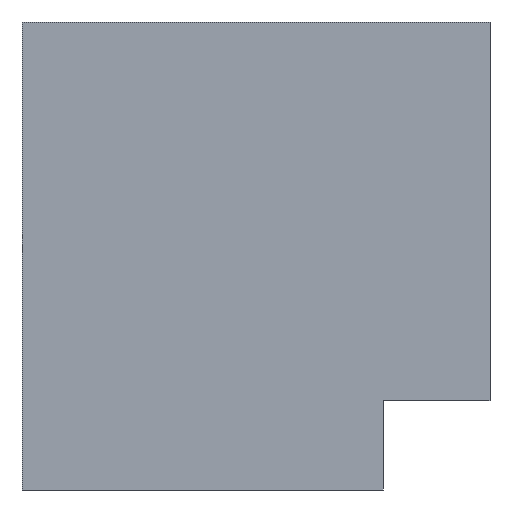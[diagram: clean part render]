
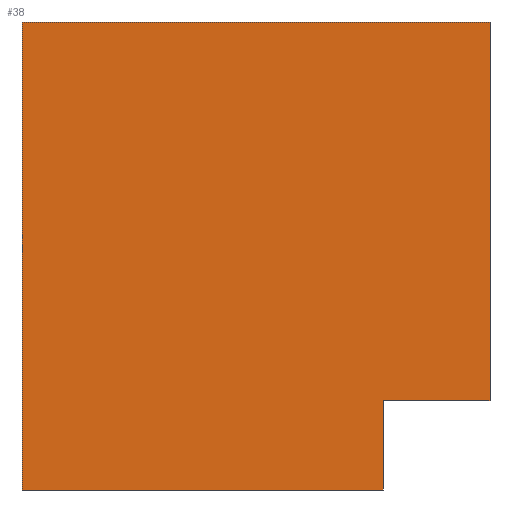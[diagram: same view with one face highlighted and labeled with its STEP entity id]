
A CAD part, front view. The second image highlights one B-rep face of the part: STEP entity #38.
In plain terms, the highlighted planar face has unit normal (0, -1, 0).
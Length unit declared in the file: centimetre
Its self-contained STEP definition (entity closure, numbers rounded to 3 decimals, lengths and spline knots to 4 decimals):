
#3 = DIRECTION ( 'NONE',  ( 0., 0., -1. ) ) ;
#33 = EDGE_CURVE ( 'NONE', #748, #565, #600, .T. ) ;
#38 = ADVANCED_FACE ( 'NONE', ( #286 ), #577, .F. ) ;
#80 = VECTOR ( 'NONE', #3, 100. ) ;
#92 = DIRECTION ( 'NONE',  ( -1., 0., 0. ) ) ;
#94 = VERTEX_POINT ( 'NONE', #772 ) ;
#102 = DIRECTION ( 'NONE',  ( 1., 0., 0. ) ) ;
#151 = LINE ( 'NONE', #728, #336 ) ;
#153 = CARTESIAN_POINT ( 'NONE',  ( 0., 0., 1000. ) ) ;
#162 = VERTEX_POINT ( 'NONE', #341 ) ;
#175 = CARTESIAN_POINT ( 'NONE',  ( 0., 0., 1000. ) ) ;
#191 = LINE ( 'NONE', #175, #707 ) ;
#195 = VERTEX_POINT ( 'NONE', #694 ) ;
#225 = DIRECTION ( 'NONE',  ( 0., 0., -1. ) ) ;
#240 = CARTESIAN_POINT ( 'NONE',  ( 0., 0., 0. ) ) ;
#246 = EDGE_CURVE ( 'NONE', #195, #162, #427, .T. ) ;
#286 = FACE_OUTER_BOUND ( 'NONE', #572, .T. ) ;
#292 = VECTOR ( 'NONE', #452, 100. ) ;
#305 = ORIENTED_EDGE ( 'NONE', *, *, #783, .F. ) ;
#324 = CARTESIAN_POINT ( 'NONE',  ( 1000., 0., 1000. ) ) ;
#336 = VECTOR ( 'NONE', #92, 100. ) ;
#340 = ORIENTED_EDGE ( 'NONE', *, *, #355, .F. ) ;
#341 = CARTESIAN_POINT ( 'NONE',  ( 771.8563, 0., 0. ) ) ;
#352 = CARTESIAN_POINT ( 'NONE',  ( 771.8563, 0., 0. ) ) ;
#355 = EDGE_CURVE ( 'NONE', #94, #195, #151, .T. ) ;
#362 = DIRECTION ( 'NONE',  ( 0., 0., 1. ) ) ;
#414 = EDGE_CURVE ( 'NONE', #565, #162, #749, .T. ) ;
#427 = LINE ( 'NONE', #352, #718 ) ;
#430 = DIRECTION ( 'NONE',  ( 0., 1., 0. ) ) ;
#443 = CARTESIAN_POINT ( 'NONE',  ( 0., 0., 1000. ) ) ;
#452 = DIRECTION ( 'NONE',  ( 0., 0., -1. ) ) ;
#472 = VERTEX_POINT ( 'NONE', #901 ) ;
#522 = ORIENTED_EDGE ( 'NONE', *, *, #414, .T. ) ;
#565 = VERTEX_POINT ( 'NONE', #659 ) ;
#572 = EDGE_LOOP ( 'NONE', ( #522, #925, #340, #667, #305, #700 ) ) ;
#577 = PLANE ( 'NONE',  #766 ) ;
#594 = VECTOR ( 'NONE', #826, 100. ) ;
#600 = LINE ( 'NONE', #654, #80 ) ;
#606 = LINE ( 'NONE', #324, #292 ) ;
#654 = CARTESIAN_POINT ( 'NONE',  ( 0., 0., 1000. ) ) ;
#659 = CARTESIAN_POINT ( 'NONE',  ( 0., 0., 0. ) ) ;
#667 = ORIENTED_EDGE ( 'NONE', *, *, #795, .F. ) ;
#694 = CARTESIAN_POINT ( 'NONE',  ( 771.8563, 0., 190.3855 ) ) ;
#700 = ORIENTED_EDGE ( 'NONE', *, *, #33, .T. ) ;
#707 = VECTOR ( 'NONE', #102, 100. ) ;
#718 = VECTOR ( 'NONE', #225, 100. ) ;
#728 = CARTESIAN_POINT ( 'NONE',  ( 771.8563, 0., 190.3855 ) ) ;
#748 = VERTEX_POINT ( 'NONE', #443 ) ;
#749 = LINE ( 'NONE', #240, #594 ) ;
#766 = AXIS2_PLACEMENT_3D ( 'NONE', #153, #430, #362 ) ;
#772 = CARTESIAN_POINT ( 'NONE',  ( 1000., 0., 190.3855 ) ) ;
#783 = EDGE_CURVE ( 'NONE', #748, #472, #191, .T. ) ;
#795 = EDGE_CURVE ( 'NONE', #472, #94, #606, .T. ) ;
#826 = DIRECTION ( 'NONE',  ( 1., 0., 0. ) ) ;
#901 = CARTESIAN_POINT ( 'NONE',  ( 1000., 0., 1000. ) ) ;
#925 = ORIENTED_EDGE ( 'NONE', *, *, #246, .F. ) ;
